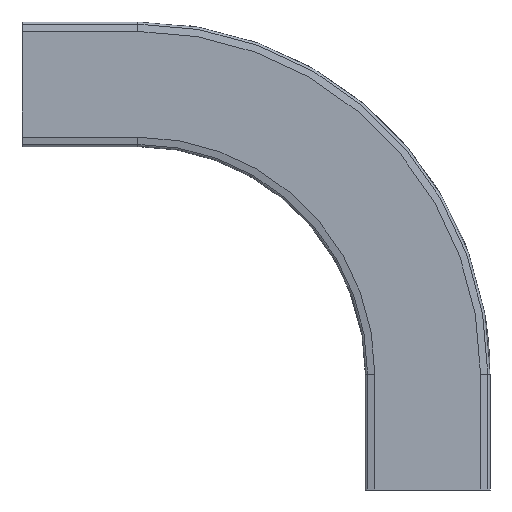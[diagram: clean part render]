
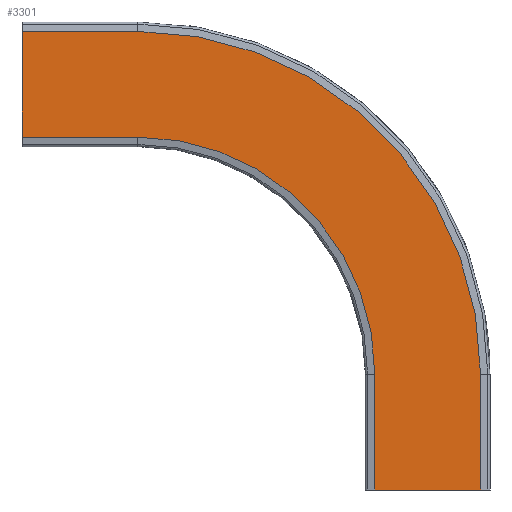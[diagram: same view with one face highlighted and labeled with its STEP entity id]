
A CAD part, front view. The second image highlights one B-rep face of the part: STEP entity #3301.
In plain terms, the highlighted planar face has unit normal (0, -1, 0).
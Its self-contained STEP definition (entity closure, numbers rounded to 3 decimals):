
#343=FACE_OUTER_BOUND('',#523,.T.);
#523=EDGE_LOOP('',(#3005,#3006,#3007,#3008,#3009,#3010,#3011,#3012));
#605=CIRCLE('',#3548,236.5);
#608=CIRCLE('',#3554,163.5);
#926=LINE('',#5797,#1272);
#931=LINE('',#5806,#1277);
#933=LINE('',#5811,#1279);
#948=LINE('',#5851,#1294);
#953=LINE('',#5862,#1299);
#954=LINE('',#5864,#1300);
#1272=VECTOR('',#4309,10.);
#1277=VECTOR('',#4316,10.);
#1279=VECTOR('',#4320,10.);
#1294=VECTOR('',#4361,10.);
#1299=VECTOR('',#4374,10.);
#1300=VECTOR('',#4377,10.);
#1588=VERTEX_POINT('',#5794);
#1589=VERTEX_POINT('',#5796);
#1592=VERTEX_POINT('',#5803);
#1593=VERTEX_POINT('',#5808);
#1603=VERTEX_POINT('',#5834);
#1605=VERTEX_POINT('',#5844);
#1606=VERTEX_POINT('',#5849);
#1608=VERTEX_POINT('',#5860);
#2044=EDGE_CURVE('',#1589,#1588,#926,.T.);
#2049=EDGE_CURVE('',#1589,#1592,#931,.T.);
#2051=EDGE_CURVE('',#1588,#1593,#933,.T.);
#2064=EDGE_CURVE('',#1593,#1603,#605,.T.);
#2070=EDGE_CURVE('',#1592,#1605,#608,.T.);
#2072=EDGE_CURVE('',#1603,#1606,#948,.T.);
#2077=EDGE_CURVE('',#1605,#1608,#953,.T.);
#2078=EDGE_CURVE('',#1606,#1608,#954,.T.);
#3005=ORIENTED_EDGE('',*,*,#2078,.T.);
#3006=ORIENTED_EDGE('',*,*,#2077,.F.);
#3007=ORIENTED_EDGE('',*,*,#2070,.F.);
#3008=ORIENTED_EDGE('',*,*,#2049,.F.);
#3009=ORIENTED_EDGE('',*,*,#2044,.T.);
#3010=ORIENTED_EDGE('',*,*,#2051,.T.);
#3011=ORIENTED_EDGE('',*,*,#2064,.T.);
#3012=ORIENTED_EDGE('',*,*,#2072,.T.);
#3130=PLANE('',#3560);
#3301=ADVANCED_FACE('',(#343),#3130,.T.);
#3548=AXIS2_PLACEMENT_3D('',#5836,#4341,#4342);
#3554=AXIS2_PLACEMENT_3D('',#5847,#4356,#4357);
#3560=AXIS2_PLACEMENT_3D('',#5863,#4375,#4376);
#4309=DIRECTION('',(1.,0.,0.));
#4316=DIRECTION('',(0.,0.,1.));
#4320=DIRECTION('',(0.,0.,1.));
#4341=DIRECTION('center_axis',(0.,-1.,0.));
#4342=DIRECTION('ref_axis',(1.,0.,0.));
#4356=DIRECTION('center_axis',(0.,-1.,0.));
#4357=DIRECTION('ref_axis',(1.,0.,0.));
#4361=DIRECTION('',(-1.,0.,0.));
#4374=DIRECTION('',(-1.,0.,0.));
#4375=DIRECTION('center_axis',(0.,-1.,0.));
#4376=DIRECTION('ref_axis',(1.,0.,0.));
#4377=DIRECTION('',(0.,0.,-1.));
#5794=CARTESIAN_POINT('',(36.5,-11.,0.));
#5796=CARTESIAN_POINT('',(-36.5,-11.,0.));
#5797=CARTESIAN_POINT('',(-36.5,-11.,0.));
#5803=CARTESIAN_POINT('',(-36.5,-11.,80.));
#5806=CARTESIAN_POINT('',(-36.5,-11.,0.));
#5808=CARTESIAN_POINT('',(36.5,-11.,80.));
#5811=CARTESIAN_POINT('',(36.5,-11.,0.));
#5834=CARTESIAN_POINT('',(-200.,-11.,316.5));
#5836=CARTESIAN_POINT('Origin',(-200.,-11.,80.));
#5844=CARTESIAN_POINT('',(-200.,-11.,243.5));
#5847=CARTESIAN_POINT('Origin',(-200.,-11.,80.));
#5849=CARTESIAN_POINT('',(-280.,-11.,316.5));
#5851=CARTESIAN_POINT('',(194.159,-11.,316.5));
#5860=CARTESIAN_POINT('',(-280.,-11.,243.5));
#5862=CARTESIAN_POINT('',(194.159,-11.,243.5));
#5863=CARTESIAN_POINT('Origin',(194.159,-11.,316.5));
#5864=CARTESIAN_POINT('',(-280.,-11.,299.75));
